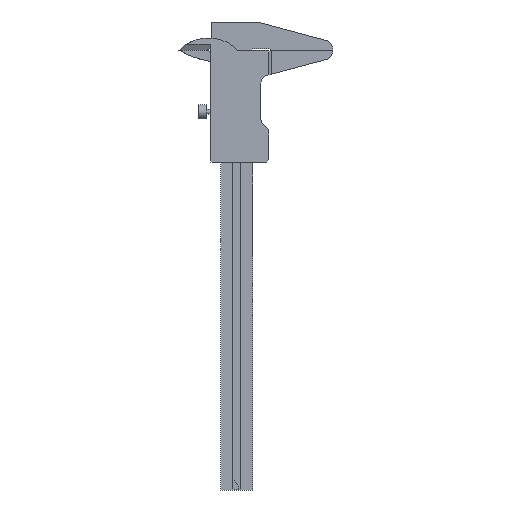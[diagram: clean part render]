
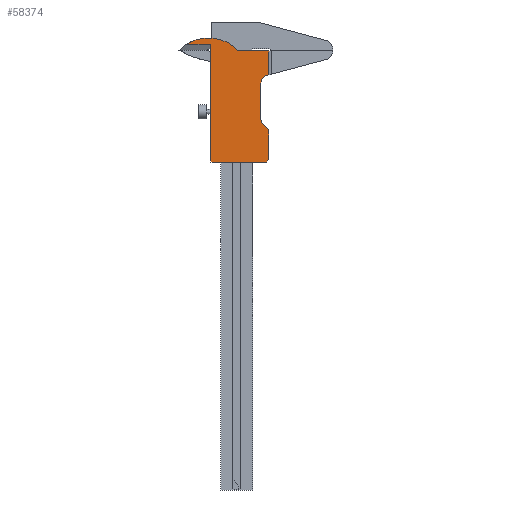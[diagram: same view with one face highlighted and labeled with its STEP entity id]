
A CAD part, front view. The second image highlights one B-rep face of the part: STEP entity #58374.
In plain terms, the highlighted planar face has unit normal (0, -1, 0).
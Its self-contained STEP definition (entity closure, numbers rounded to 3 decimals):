
#1186 = ORIENTED_EDGE ( 'NONE', *, *, #41435, .T. ) ;
#1515 = EDGE_CURVE ( 'NONE', #16963, #46833, #42908, .T. ) ;
#2015 = LINE ( 'NONE', #15007, #63267 ) ;
#2466 = CARTESIAN_POINT ( 'NONE',  ( -33.195, -5., 2.944 ) ) ;
#2827 = CARTESIAN_POINT ( 'NONE',  ( 4., -5., -16.552 ) ) ;
#2957 = LINE ( 'NONE', #15545, #72870 ) ;
#3007 = DIRECTION ( 'NONE',  ( 0., 1., 0. ) ) ;
#3895 = ORIENTED_EDGE ( 'NONE', *, *, #28100, .F. ) ;
#5048 = VECTOR ( 'NONE', #6588, 1000. ) ;
#6161 = ORIENTED_EDGE ( 'NONE', *, *, #75516, .T. ) ;
#6296 = VERTEX_POINT ( 'NONE', #72813 ) ;
#6588 = DIRECTION ( 'NONE',  ( -0.966, 0., -0.259 ) ) ;
#6703 = ORIENTED_EDGE ( 'NONE', *, *, #15531, .T. ) ;
#6752 = DIRECTION ( 'NONE',  ( 0., 0., 1. ) ) ;
#8982 = DIRECTION ( 'NONE',  ( 0., 1., 0. ) ) ;
#9005 = VECTOR ( 'NONE', #74347, 1000. ) ;
#9659 = VECTOR ( 'NONE', #48545, 1000. ) ;
#9745 = EDGE_CURVE ( 'NONE', #57938, #48636, #36642, .T. ) ;
#11127 = DIRECTION ( 'NONE',  ( 0., 0., 1. ) ) ;
#11836 = VERTEX_POINT ( 'NONE', #15570 ) ;
#11878 = DIRECTION ( 'NONE',  ( 0.643, 0., -0.766 ) ) ;
#12557 = ORIENTED_EDGE ( 'NONE', *, *, #25312, .F. ) ;
#12692 = EDGE_CURVE ( 'NONE', #77518, #40209, #75619, .T. ) ;
#14434 = VERTEX_POINT ( 'NONE', #74043 ) ;
#14892 = CARTESIAN_POINT ( 'NONE',  ( -21.3, -5., 0.723 ) ) ;
#15007 = CARTESIAN_POINT ( 'NONE',  ( 8., -5., -40.25 ) ) ;
#15214 = CARTESIAN_POINT ( 'NONE',  ( 4.468, -5., -36.04 ) ) ;
#15531 = EDGE_CURVE ( 'NONE', #16316, #40209, #70109, .T. ) ;
#15545 = CARTESIAN_POINT ( 'NONE',  ( -24., -5., 0. ) ) ;
#15570 = CARTESIAN_POINT ( 'NONE',  ( 4., -5., -16.552 ) ) ;
#16316 = VERTEX_POINT ( 'NONE', #23927 ) ;
#16439 = EDGE_CURVE ( 'NONE', #40429, #30296, #43462, .T. ) ;
#16914 = CARTESIAN_POINT ( 'NONE',  ( -21.3, -5., 2.944 ) ) ;
#16963 = VERTEX_POINT ( 'NONE', #58031 ) ;
#18155 = CARTESIAN_POINT ( 'NONE',  ( 4., -5., -35.483 ) ) ;
#19746 = DIRECTION ( 'NONE',  ( 0., 1., 0. ) ) ;
#19928 = LINE ( 'NONE', #24957, #26389 ) ;
#20080 = DIRECTION ( 'NONE',  ( 0., 0., 1. ) ) ;
#20129 = DIRECTION ( 'NONE',  ( 0., 0., 1. ) ) ;
#20746 = CARTESIAN_POINT ( 'NONE',  ( -22.25, -5., -15.13 ) ) ;
#21036 = CARTESIAN_POINT ( 'NONE',  ( -21., -5., 0.804 ) ) ;
#21460 = EDGE_CURVE ( 'NONE', #14434, #11836, #40490, .T. ) ;
#23337 = ORIENTED_EDGE ( 'NONE', *, *, #58394, .F. ) ;
#23468 = CARTESIAN_POINT ( 'NONE',  ( 7.532, -5., -39.692 ) ) ;
#23633 = CARTESIAN_POINT ( 'NONE',  ( -21.3, -5., 2.944 ) ) ;
#23927 = CARTESIAN_POINT ( 'NONE',  ( 8., -5., -40.978 ) ) ;
#24321 = ORIENTED_EDGE ( 'NONE', *, *, #1515, .F. ) ;
#24790 = PLANE ( 'NONE',  #56549 ) ;
#24957 = CARTESIAN_POINT ( 'NONE',  ( 8., -5., -54.7 ) ) ;
#25152 = EDGE_CURVE ( 'NONE', #6296, #82174, #19928, .T. ) ;
#25312 = EDGE_CURVE ( 'NONE', #30296, #82270, #79928, .T. ) ;
#25385 = EDGE_LOOP ( 'NONE', ( #55288, #58549, #23337, #6703, #48717, #6161, #46925, #62163, #3895, #24321, #1186, #12557, #35716, #77882, #28542, #80426, #56410 ) ) ;
#25891 = CARTESIAN_POINT ( 'NONE',  ( 36.294, -5., -4.83 ) ) ;
#26022 = CARTESIAN_POINT ( 'NONE',  ( -22.25, -5., -15.13 ) ) ;
#26389 = VECTOR ( 'NONE', #44278, 1000. ) ;
#26679 = LINE ( 'NONE', #33408, #72538 ) ;
#28100 = EDGE_CURVE ( 'NONE', #46833, #14434, #77052, .T. ) ;
#28542 = ORIENTED_EDGE ( 'NONE', *, *, #9745, .F. ) ;
#29212 = DIRECTION ( 'NONE',  ( -1., 0., 0. ) ) ;
#30286 = EDGE_CURVE ( 'NONE', #48636, #40429, #61098, .T. ) ;
#30296 = VERTEX_POINT ( 'NONE', #34697 ) ;
#31363 = AXIS2_PLACEMENT_3D ( 'NONE', #26022, #77601, #20129 ) ;
#33408 = CARTESIAN_POINT ( 'NONE',  ( -7.004, -5., -0.5 ) ) ;
#34697 = CARTESIAN_POINT ( 'NONE',  ( -22.25, -5., 6. ) ) ;
#35268 = VERTEX_POINT ( 'NONE', #55412 ) ;
#35716 = ORIENTED_EDGE ( 'NONE', *, *, #16439, .F. ) ;
#35755 = DIRECTION ( 'NONE',  ( -1., 0., 0. ) ) ;
#36170 = LINE ( 'NONE', #47936, #73257 ) ;
#36642 = LINE ( 'NONE', #16914, #75141 ) ;
#37721 = EDGE_CURVE ( 'NONE', #6296, #35268, #36170, .T. ) ;
#39404 = CARTESIAN_POINT ( 'NONE',  ( -21., -5., -56. ) ) ;
#39816 = LINE ( 'NONE', #39404, #49628 ) ;
#40179 = VERTEX_POINT ( 'NONE', #81752 ) ;
#40209 = VERTEX_POINT ( 'NONE', #23468 ) ;
#40429 = VERTEX_POINT ( 'NONE', #2466 ) ;
#40490 = CIRCLE ( 'NONE', #79303, 4. ) ;
#41435 = EDGE_CURVE ( 'NONE', #16963, #82270, #26679, .T. ) ;
#41802 = CARTESIAN_POINT ( 'NONE',  ( 6., -5., -40.978 ) ) ;
#42908 = LINE ( 'NONE', #44152, #9005 ) ;
#43462 = CIRCLE ( 'NONE', #31363, 21.13 ) ;
#43796 = AXIS2_PLACEMENT_3D ( 'NONE', #20746, #8982, #52644 ) ;
#44104 = FACE_OUTER_BOUND ( 'NONE', #25385, .T. ) ;
#44152 = CARTESIAN_POINT ( 'NONE',  ( 8., -5., 0. ) ) ;
#44278 = DIRECTION ( 'NONE',  ( 0.707, 0., 0.707 ) ) ;
#44950 = CARTESIAN_POINT ( 'NONE',  ( 8., -5., -54.7 ) ) ;
#46833 = VERTEX_POINT ( 'NONE', #69934 ) ;
#46925 = ORIENTED_EDGE ( 'NONE', *, *, #58404, .F. ) ;
#47936 = CARTESIAN_POINT ( 'NONE',  ( 8., -5., -56. ) ) ;
#48545 = DIRECTION ( 'NONE',  ( 0., 0., -1. ) ) ;
#48636 = VERTEX_POINT ( 'NONE', #23633 ) ;
#48714 = DIRECTION ( 'NONE',  ( 0., 0., -1. ) ) ;
#48717 = ORIENTED_EDGE ( 'NONE', *, *, #12692, .F. ) ;
#49628 = VECTOR ( 'NONE', #20080, 1000. ) ;
#50387 = DIRECTION ( 'NONE',  ( 0., 0., -1. ) ) ;
#52020 = CIRCLE ( 'NONE', #78834, 2. ) ;
#52644 = DIRECTION ( 'NONE',  ( 0., 0., 1. ) ) ;
#53276 = VECTOR ( 'NONE', #11878, 1000. ) ;
#55288 = ORIENTED_EDGE ( 'NONE', *, *, #37721, .F. ) ;
#55412 = CARTESIAN_POINT ( 'NONE',  ( -21., -5., -56. ) ) ;
#56410 = ORIENTED_EDGE ( 'NONE', *, *, #60928, .F. ) ;
#56549 = AXIS2_PLACEMENT_3D ( 'NONE', #77206, #19746, #6752 ) ;
#57938 = VERTEX_POINT ( 'NONE', #14892 ) ;
#58031 = CARTESIAN_POINT ( 'NONE',  ( 8., -5., -0.5 ) ) ;
#58374 = ADVANCED_FACE ( 'NONE', ( #44104 ), #24790, .F. ) ;
#58394 = EDGE_CURVE ( 'NONE', #16316, #82174, #2015, .T. ) ;
#58404 = EDGE_CURVE ( 'NONE', #11836, #40179, #79164, .T. ) ;
#58549 = ORIENTED_EDGE ( 'NONE', *, *, #25152, .T. ) ;
#59403 = AXIS2_PLACEMENT_3D ( 'NONE', #41802, #67375, #11127 ) ;
#60000 = CARTESIAN_POINT ( 'NONE',  ( -7.004, -5., -0.5 ) ) ;
#60490 = CARTESIAN_POINT ( 'NONE',  ( 6., -5., -34.755 ) ) ;
#60901 = DIRECTION ( 'NONE',  ( 0., 0., 1. ) ) ;
#60928 = EDGE_CURVE ( 'NONE', #35268, #68042, #39816, .T. ) ;
#61098 = LINE ( 'NONE', #74895, #77342 ) ;
#61720 = CARTESIAN_POINT ( 'NONE',  ( 8., -5., -16.552 ) ) ;
#62163 = ORIENTED_EDGE ( 'NONE', *, *, #21460, .F. ) ;
#63267 = VECTOR ( 'NONE', #50387, 1000. ) ;
#64861 = DIRECTION ( 'NONE',  ( -1., 0., 0. ) ) ;
#65909 = EDGE_CURVE ( 'NONE', #57938, #68042, #2957, .T. ) ;
#67375 = DIRECTION ( 'NONE',  ( 0., -1., 0. ) ) ;
#67547 = DIRECTION ( 'NONE',  ( 0.966, 0., 0.259 ) ) ;
#67589 = DIRECTION ( 'NONE',  ( 0., -1., 0. ) ) ;
#68042 = VERTEX_POINT ( 'NONE', #21036 ) ;
#69934 = CARTESIAN_POINT ( 'NONE',  ( 8., -5., -12.411 ) ) ;
#70109 = CIRCLE ( 'NONE', #59403, 2. ) ;
#72538 = VECTOR ( 'NONE', #64861, 1000. ) ;
#72813 = CARTESIAN_POINT ( 'NONE',  ( 6.7, -5., -56. ) ) ;
#72870 = VECTOR ( 'NONE', #67547, 1000. ) ;
#73257 = VECTOR ( 'NONE', #35755, 1000. ) ;
#74043 = CARTESIAN_POINT ( 'NONE',  ( 6.965, -5., -12.688 ) ) ;
#74347 = DIRECTION ( 'NONE',  ( 0., 0., -1. ) ) ;
#74895 = CARTESIAN_POINT ( 'NONE',  ( -17.6, -5., 2.944 ) ) ;
#75141 = VECTOR ( 'NONE', #75196, 1000. ) ;
#75196 = DIRECTION ( 'NONE',  ( 0., 0., 1. ) ) ;
#75516 = EDGE_CURVE ( 'NONE', #77518, #40179, #52020, .T. ) ;
#75619 = LINE ( 'NONE', #18155, #53276 ) ;
#77052 = LINE ( 'NONE', #25891, #5048 ) ;
#77206 = CARTESIAN_POINT ( 'NONE',  ( -22.25, -5., -15.13 ) ) ;
#77342 = VECTOR ( 'NONE', #29212, 1000. ) ;
#77518 = VERTEX_POINT ( 'NONE', #15214 ) ;
#77601 = DIRECTION ( 'NONE',  ( 0., 1., 0. ) ) ;
#77882 = ORIENTED_EDGE ( 'NONE', *, *, #30286, .F. ) ;
#78834 = AXIS2_PLACEMENT_3D ( 'NONE', #60490, #3007, #60901 ) ;
#79164 = LINE ( 'NONE', #2827, #9659 ) ;
#79303 = AXIS2_PLACEMENT_3D ( 'NONE', #61720, #67589, #48714 ) ;
#79928 = CIRCLE ( 'NONE', #43796, 21.13 ) ;
#80426 = ORIENTED_EDGE ( 'NONE', *, *, #65909, .T. ) ;
#81752 = CARTESIAN_POINT ( 'NONE',  ( 4., -5., -34.755 ) ) ;
#82174 = VERTEX_POINT ( 'NONE', #44950 ) ;
#82270 = VERTEX_POINT ( 'NONE', #60000 ) ;
